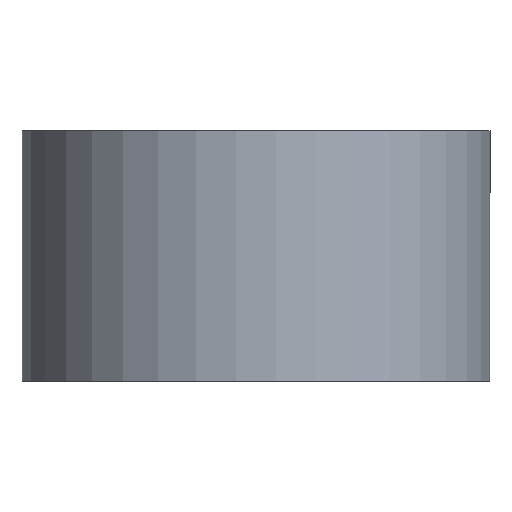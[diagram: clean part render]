
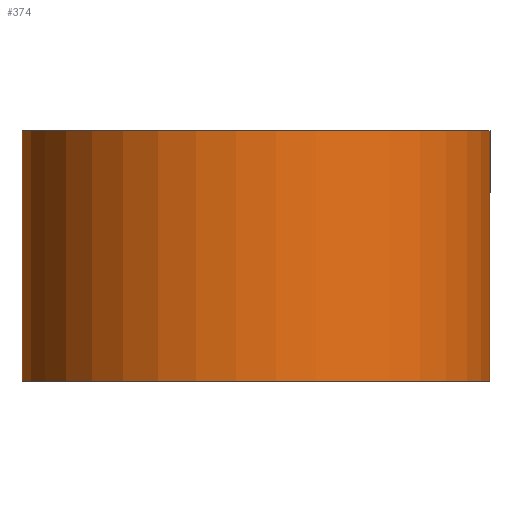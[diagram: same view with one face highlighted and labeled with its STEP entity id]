
A CAD part, left-side view. The second image highlights one B-rep face of the part: STEP entity #374.
In plain terms, the highlighted cylindrical face has radius 7.5 mm (diameter 15 mm), a partial arc.
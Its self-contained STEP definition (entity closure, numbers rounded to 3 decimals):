
#18=CYLINDRICAL_SURFACE('',#402,7.5);
#32=CIRCLE('',#403,7.5);
#33=CIRCLE('',#404,7.5);
#48=FACE_OUTER_BOUND('',#73,.T.);
#73=EDGE_LOOP('',(#308,#309,#310,#311));
#112=LINE('',#589,#153);
#113=LINE('',#595,#154);
#153=VECTOR('',#483,10.);
#154=VECTOR('',#490,10.);
#189=VERTEX_POINT('',#585);
#190=VERTEX_POINT('',#587);
#191=VERTEX_POINT('',#591);
#192=VERTEX_POINT('',#593);
#234=EDGE_CURVE('',#189,#190,#112,.T.);
#235=EDGE_CURVE('',#189,#191,#32,.T.);
#236=EDGE_CURVE('',#192,#190,#33,.T.);
#237=EDGE_CURVE('',#191,#192,#113,.T.);
#308=ORIENTED_EDGE('',*,*,#235,.F.);
#309=ORIENTED_EDGE('',*,*,#234,.T.);
#310=ORIENTED_EDGE('',*,*,#236,.F.);
#311=ORIENTED_EDGE('',*,*,#237,.F.);
#374=ADVANCED_FACE('',(#48),#18,.T.);
#402=AXIS2_PLACEMENT_3D('',#590,#484,#485);
#403=AXIS2_PLACEMENT_3D('',#592,#486,#487);
#404=AXIS2_PLACEMENT_3D('',#594,#488,#489);
#483=DIRECTION('',(0.,0.,1.));
#484=DIRECTION('center_axis',(0.,0.,1.));
#485=DIRECTION('ref_axis',(-0.68,-0.733,0.));
#486=DIRECTION('center_axis',(0.,0.,-1.));
#487=DIRECTION('ref_axis',(-0.68,-0.733,0.));
#488=DIRECTION('center_axis',(0.,0.,1.));
#489=DIRECTION('ref_axis',(-0.68,-0.733,0.));
#490=DIRECTION('',(0.,0.,1.));
#585=CARTESIAN_POINT('',(5.099,-5.5,0.));
#587=CARTESIAN_POINT('',(5.099,-5.5,8.));
#589=CARTESIAN_POINT('',(5.099,-5.5,0.));
#590=CARTESIAN_POINT('Origin',(0.,0.,0.));
#591=CARTESIAN_POINT('',(5.099,5.5,0.));
#592=CARTESIAN_POINT('Origin',(0.,0.,0.));
#593=CARTESIAN_POINT('',(5.099,5.5,8.));
#594=CARTESIAN_POINT('Origin',(0.,0.,8.));
#595=CARTESIAN_POINT('',(5.099,5.5,0.));
